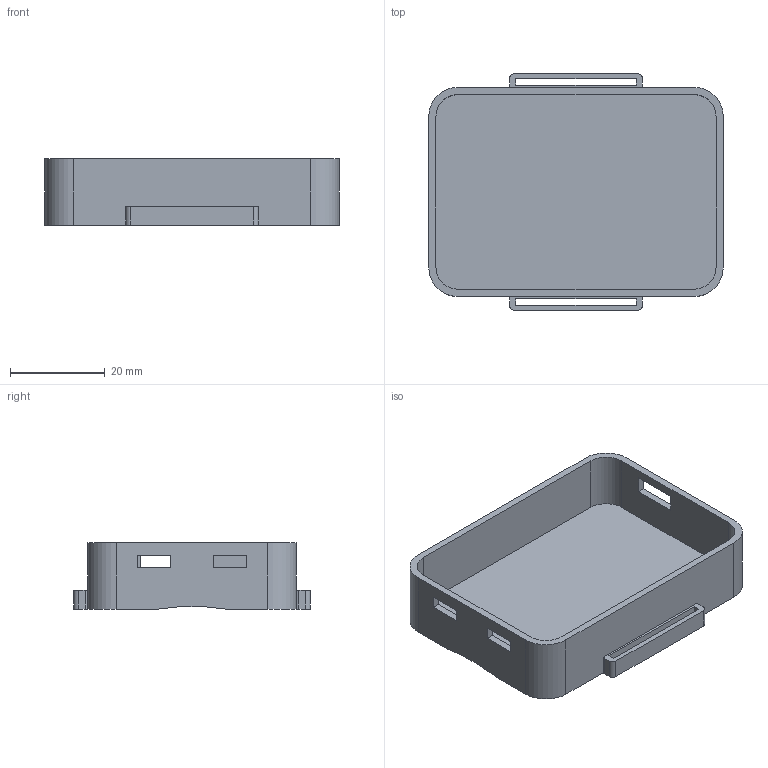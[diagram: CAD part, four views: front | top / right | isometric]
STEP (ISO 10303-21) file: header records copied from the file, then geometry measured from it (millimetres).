
FILE_DESCRIPTION(('Open CASCADE Model'),'2;1');
FILE_NAME('Open CASCADE Shape Model','2026-10-04T21:33:04',('Author'),( 'Open CASCADE'),'Open CASCADE STEP processor 7.9','Open CASCADE 7.9' ,'Unknown');
FILE_SCHEMA(('AUTOMOTIVE_DESIGN { 1 0 10303 214 1 1 1 1 }'));
Length unit declared in the file: millimetre
Products named in the file (1): Open CASCADE STEP translator 7.9 9
Bounding box: 62 x 49.8 x 14 mm (x, y, z)
Volume: 8828.5 mm3; surface area: 11121.8 mm2
Topology: 1 solids, 1 shells, 57 faces, 162 edges, 108 vertices
Faces by surface type: plane 40, cylinder 17
Entity records: 3962 total; most frequent: CARTESIAN_POINT 820, DIRECTION 548, LINE 346, VECTOR 346, ORIENTED_EDGE 324, PCURVE 324, DEFINITIONAL_REPRESENTATION 324, EDGE_CURVE 162
